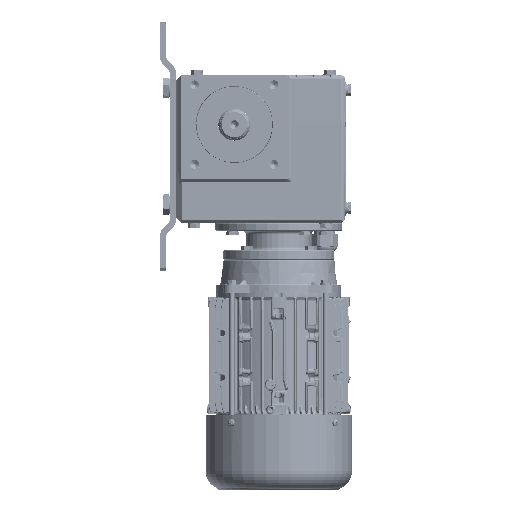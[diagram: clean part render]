
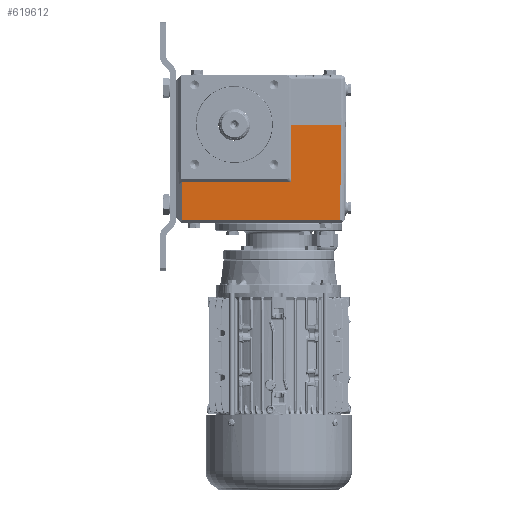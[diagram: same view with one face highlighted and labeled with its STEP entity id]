
A CAD part, left-side view. The second image highlights one B-rep face of the part: STEP entity #619612.
In plain terms, the highlighted planar face has unit normal (-1, 0, -0.009).
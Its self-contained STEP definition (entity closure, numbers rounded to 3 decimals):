
#5571 = CARTESIAN_POINT ( 'NONE',  ( -93., 53., 0. ) ) ;
#13612 = LINE ( 'NONE', #5571, #701487 ) ;
#27826 = ORIENTED_EDGE ( 'NONE', *, *, #451293, .T. ) ;
#36901 = DIRECTION ( 'NONE',  ( 0.009, -0.009, -1. ) ) ;
#50748 = CARTESIAN_POINT ( 'NONE',  ( -92.529, 49.529, -53.971 ) ) ;
#58109 = VECTOR ( 'NONE', #109312, 1000. ) ;
#60114 = VERTEX_POINT ( 'NONE', #147692 ) ;
#81073 = VECTOR ( 'NONE', #36901, 1000. ) ;
#89522 = CARTESIAN_POINT ( 'NONE',  ( -93., 53., 0. ) ) ;
#97382 = VERTEX_POINT ( 'NONE', #140962 ) ;
#109312 = DIRECTION ( 'NONE',  ( 0., -1., 0. ) ) ;
#110587 = LINE ( 'NONE', #791823, #150274 ) ;
#112982 = ORIENTED_EDGE ( 'NONE', *, *, #716687, .F. ) ;
#140962 = CARTESIAN_POINT ( 'NONE',  ( -92.215, 49.215, -90. ) ) ;
#147692 = CARTESIAN_POINT ( 'NONE',  ( -93., -100.756, 0. ) ) ;
#150274 = VECTOR ( 'NONE', #803803, 1000. ) ;
#158730 = DIRECTION ( 'NONE',  ( -1., 0., -0.009 ) ) ;
#164394 = LINE ( 'NONE', #592761, #709192 ) ;
#168983 = CARTESIAN_POINT ( 'NONE',  ( -92.215, -99.972, -90. ) ) ;
#172821 = CARTESIAN_POINT ( 'NONE',  ( -93., -100.757, 0. ) ) ;
#185685 = AXIS2_PLACEMENT_3D ( 'NONE', #89522, #158730, #338375 ) ;
#196619 = LINE ( 'NONE', #767688, #238559 ) ;
#200576 = ORIENTED_EDGE ( 'NONE', *, *, #548074, .T. ) ;
#207232 = CARTESIAN_POINT ( 'NONE',  ( -92.548, -53.952, -51.831 ) ) ;
#208940 = VERTEX_POINT ( 'NONE', #721261 ) ;
#238559 = VECTOR ( 'NONE', #694329, 1000. ) ;
#239829 = CARTESIAN_POINT ( 'NONE',  ( -92.529, 53., -53.971 ) ) ;
#285452 = VECTOR ( 'NONE', #476589, 1000. ) ;
#319809 = DIRECTION ( 'NONE',  ( 0., -1., 0. ) ) ;
#338375 = DIRECTION ( 'NONE',  ( -0.009, 0., 1. ) ) ;
#347092 = CARTESIAN_POINT ( 'NONE',  ( -92.585, 49.585, -47.5 ) ) ;
#362769 = VERTEX_POINT ( 'NONE', #785740 ) ;
#363118 = LINE ( 'NONE', #347092, #81073 ) ;
#371561 = VERTEX_POINT ( 'NONE', #50748 ) ;
#380472 = CARTESIAN_POINT ( 'NONE',  ( -93., -53.5, 0. ) ) ;
#394175 = ORIENTED_EDGE ( 'NONE', *, *, #570024, .F. ) ;
#398999 = CARTESIAN_POINT ( 'NONE',  ( -92.536, -53.964, -53.188 ) ) ;
#415543 = VERTEX_POINT ( 'NONE', #172821 ) ;
#419318 = CARTESIAN_POINT ( 'NONE',  ( -92.215, 53., -90. ) ) ;
#451293 = EDGE_CURVE ( 'NONE', #371561, #97382, #363118, .T. ) ;
#468138 = CARTESIAN_POINT ( 'NONE',  ( -92.529, -51.85, -53.971 ) ) ;
#476589 = DIRECTION ( 'NONE',  ( 0., -1., 0. ) ) ;
#479370 = ORIENTED_EDGE ( 'NONE', *, *, #499133, .F. ) ;
#488622 = LINE ( 'NONE', #239829, #285452 ) ;
#499133 = EDGE_CURVE ( 'NONE', #734529, #60114, #13612, .T. ) ;
#518609 = EDGE_LOOP ( 'NONE', ( #27826, #738087, #524183, #647701, #479370, #394175, #200576, #112982 ) ) ;
#524183 = ORIENTED_EDGE ( 'NONE', *, *, #645555, .T. ) ;
#535577 = DIRECTION ( 'NONE',  ( -0.009, 0.009, 1. ) ) ;
#548074 = EDGE_CURVE ( 'NONE', #208940, #362769, #633900, .T. ) ;
#551148 = VERTEX_POINT ( 'NONE', #168983 ) ;
#570024 = EDGE_CURVE ( 'NONE', #208940, #734529, #164394, .T. ) ;
#592761 = CARTESIAN_POINT ( 'NONE',  ( -93.008, -53.492, 0.929 ) ) ;
#619612 = ADVANCED_FACE ( 'NONE', ( #701502 ), #713565, .T. ) ;
#633900 =( BOUNDED_CURVE ( )  B_SPLINE_CURVE ( 3, ( #207232, #398999, #704994, #468138 ),
 .UNSPECIFIED., .F., .F. ) 
 B_SPLINE_CURVE_WITH_KNOTS ( ( 4, 4 ),
 ( 2.61, 3.658 ),
 .UNSPECIFIED. ) 
 CURVE ( )  GEOMETRIC_REPRESENTATION_ITEM ( )  RATIONAL_B_SPLINE_CURVE ( ( 1., 0.911, 0.911, 1. ) ) 
 REPRESENTATION_ITEM ( '' )  );
#645555 = EDGE_CURVE ( 'NONE', #551148, #415543, #196619, .T. ) ;
#647701 = ORIENTED_EDGE ( 'NONE', *, *, #664597, .F. ) ;
#656089 = LINE ( 'NONE', #419318, #58109 ) ;
#664597 = EDGE_CURVE ( 'NONE', #60114, #415543, #110587, .T. ) ;
#674218 = EDGE_CURVE ( 'NONE', #97382, #551148, #656089, .T. ) ;
#694329 = DIRECTION ( 'NONE',  ( -0.009, -0.009, 1. ) ) ;
#701487 = VECTOR ( 'NONE', #319809, 1000. ) ;
#701502 = FACE_OUTER_BOUND ( 'NONE', #518609, .T. ) ;
#704994 = CARTESIAN_POINT ( 'NONE',  ( -92.529, -53.195, -53.971 ) ) ;
#709192 = VECTOR ( 'NONE', #535577, 1000. ) ;
#713565 = PLANE ( 'NONE',  #185685 ) ;
#716687 = EDGE_CURVE ( 'NONE', #371561, #362769, #488622, .T. ) ;
#721261 = CARTESIAN_POINT ( 'NONE',  ( -92.548, -53.952, -51.831 ) ) ;
#734529 = VERTEX_POINT ( 'NONE', #380472 ) ;
#738087 = ORIENTED_EDGE ( 'NONE', *, *, #674218, .T. ) ;
#767688 = CARTESIAN_POINT ( 'NONE',  ( -93., -100.757, 0.011 ) ) ;
#785740 = CARTESIAN_POINT ( 'NONE',  ( -92.529, -51.85, -53.971 ) ) ;
#791823 = CARTESIAN_POINT ( 'NONE',  ( -93., 53., 0. ) ) ;
#803803 = DIRECTION ( 'NONE',  ( 0., -1., 0. ) ) ;
